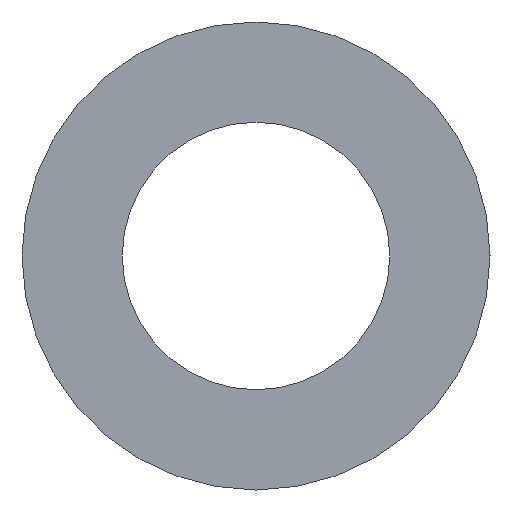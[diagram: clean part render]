
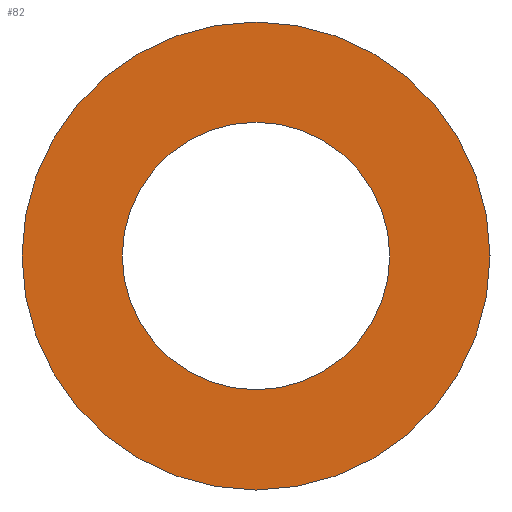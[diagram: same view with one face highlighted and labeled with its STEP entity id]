
A CAD part, left-side view. The second image highlights one B-rep face of the part: STEP entity #82.
In plain terms, the highlighted planar face has unit normal (-1, 0, 0).
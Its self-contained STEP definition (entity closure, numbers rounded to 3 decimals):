
#82 = ADVANCED_FACE( '', ( #109, #110 ), #111, .T. );
#109 = FACE_BOUND( '', #145, .T. );
#110 = FACE_OUTER_BOUND( '', #146, .T. );
#111 = PLANE( '', #147 );
#145 = EDGE_LOOP( '', ( #195 ) );
#146 = EDGE_LOOP( '', ( #196 ) );
#147 = AXIS2_PLACEMENT_3D( '', #197, #198, #199 );
#195 = ORIENTED_EDGE( '', *, *, #229, .T. );
#196 = ORIENTED_EDGE( '', *, *, #228, .F. );
#197 = CARTESIAN_POINT( '', ( 0., 10.5, 0. ) );
#198 = DIRECTION( '', ( -1., 0., 0. ) );
#199 = DIRECTION( '', ( 0., 0., 1. ) );
#228 = EDGE_CURVE( '', #248, #248, #249, .T. );
#229 = EDGE_CURVE( '', #250, #250, #251, .T. );
#248 = VERTEX_POINT( '', #272 );
#249 = CIRCLE( '', #273, 10.5 );
#250 = VERTEX_POINT( '', #274 );
#251 = CIRCLE( '', #275, 6. );
#272 = CARTESIAN_POINT( '', ( 0., 0., -10.5 ) );
#273 = AXIS2_PLACEMENT_3D( '', #304, #305, #306 );
#274 = CARTESIAN_POINT( '', ( 0., 0., -6. ) );
#275 = AXIS2_PLACEMENT_3D( '', #307, #308, #309 );
#304 = CARTESIAN_POINT( '', ( 0., 0., 0. ) );
#305 = DIRECTION( '', ( 1., 0., 0. ) );
#306 = DIRECTION( '', ( 0., 0., -1. ) );
#307 = CARTESIAN_POINT( '', ( 0., 0., 0. ) );
#308 = DIRECTION( '', ( 1., 0., 0. ) );
#309 = DIRECTION( '', ( 0., 0., -1. ) );
